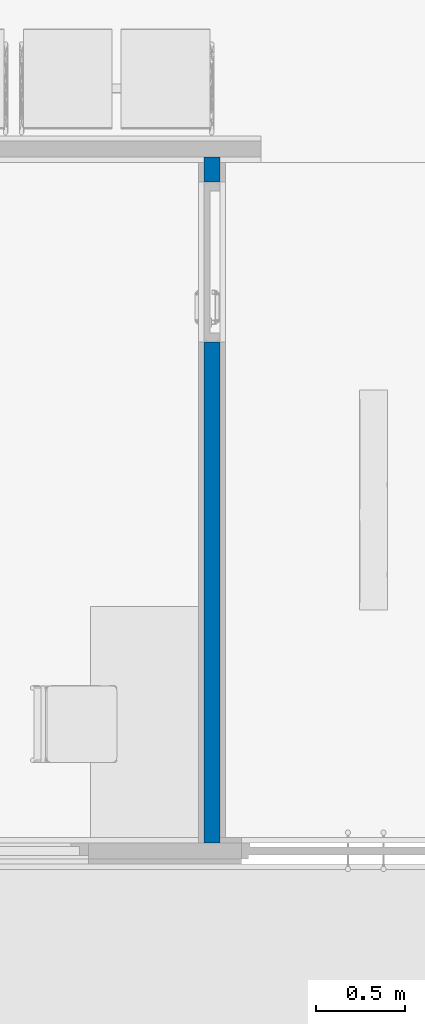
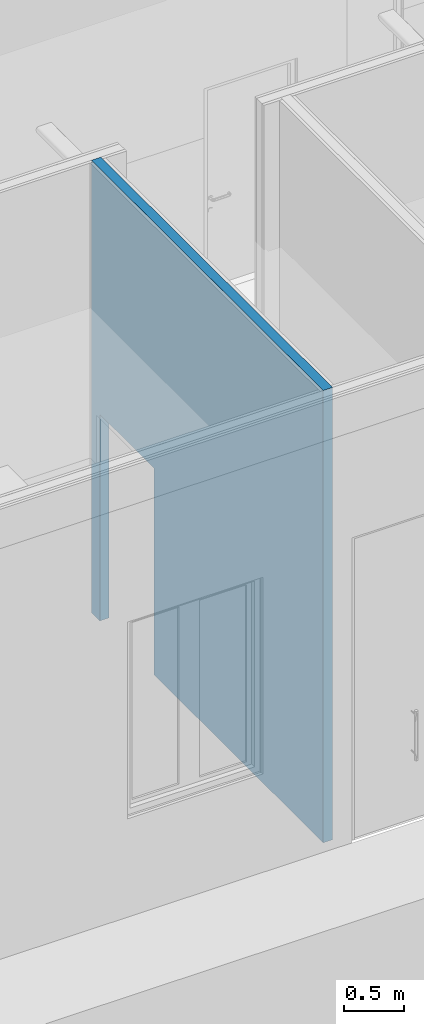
# One storey, part 8 of 155: 1 wall, 1 opening.
"""IFC2X3 building model written with IfcOpenShell, lengths in metres."""

from ifc_helpers import new_model, entity, si_unit, converted_unit, derived_unit, direction, frame, frame_2d, origin, place, context, subcontext, project, spatial, rectangle, extrude, material, layer, layer_set, layer_usage, type_object, element, save


model = new_model("IFC2X3")

# Units and contexts
model_context = context("Model", 3, precision=1e-05, world=origin(), true_north=direction((6.12303176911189e-17, 1.0)))
body_context = subcontext(model_context, "Body", "Model", "MODEL_VIEW")
ifc_project = project(units=[si_unit("LENGTHUNIT", "METRE"), si_unit("AREAUNIT", "SQUARE_METRE"), si_unit("VOLUMEUNIT", "CUBIC_METRE"), converted_unit("PLANEANGLEUNIT", "DEGREE", entity("IfcRatioMeasure", 0.0174532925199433), si_unit("PLANEANGLEUNIT", "RADIAN"), dimensions=[0, 0, 0, 0, 0, 0, 0]), si_unit("MASSUNIT", "GRAM", prefix="KILO"), derived_unit("MASSDENSITYUNIT", [(si_unit("MASSUNIT", "GRAM", prefix="KILO"), 1), (si_unit("LENGTHUNIT", "METRE"), -3)]), si_unit("TIMEUNIT", "SECOND"), si_unit("FREQUENCYUNIT", "HERTZ"), si_unit("THERMODYNAMICTEMPERATUREUNIT", "DEGREE_CELSIUS"), derived_unit("THERMALTRANSMITTANCEUNIT", [(si_unit("MASSUNIT", "GRAM", prefix="KILO"), 1), (si_unit("THERMODYNAMICTEMPERATUREUNIT", "KELVIN"), -1), (si_unit("TIMEUNIT", "SECOND"), -3)]), derived_unit("VOLUMETRICFLOWRATEUNIT", [(si_unit("LENGTHUNIT", "METRE"), 3), (si_unit("TIMEUNIT", "SECOND"), -1)]), si_unit("ELECTRICCURRENTUNIT", "AMPERE"), si_unit("ELECTRICVOLTAGEUNIT", "VOLT"), si_unit("POWERUNIT", "WATT"), si_unit("FORCEUNIT", "NEWTON", prefix="KILO"), si_unit("ILLUMINANCEUNIT", "LUX"), si_unit("LUMINOUSFLUXUNIT", "LUMEN"), si_unit("LUMINOUSINTENSITYUNIT", "CANDELA"), derived_unit("USERDEFINED", [(si_unit("MASSUNIT", "GRAM", prefix="KILO"), -1), (si_unit("LENGTHUNIT", "METRE"), -2), (si_unit("TIMEUNIT", "SECOND"), 3), (si_unit("LUMINOUSFLUXUNIT", "LUMEN"), 1)]), derived_unit("LINEARVELOCITYUNIT", [(si_unit("LENGTHUNIT", "METRE"), 1), (si_unit("TIMEUNIT", "SECOND"), -1)]), si_unit("PRESSUREUNIT", "PASCAL"), derived_unit("USERDEFINED", [(si_unit("LENGTHUNIT", "METRE"), -2), (si_unit("MASSUNIT", "GRAM", prefix="KILO"), 1), (si_unit("TIMEUNIT", "SECOND"), -2)])], contexts=[model_context])

# Site, building, storey
site_placement = place(None, frame((26.9889013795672, -17.5624287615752, 0.0)))
site = spatial("IfcSite", under=ifc_project, at=site_placement, Name="Default", CompositionType="ELEMENT")
building_placement = place(site_placement, origin())
building = spatial("IfcBuilding", under=site, at=building_placement, Name="C. C. L. Monsenhor Antônio Sampaio", CompositionType="ELEMENT")
storey_placement = place(building_placement, frame((0.0, 0.0, 1.19999999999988)))
storey = spatial("IfcBuildingStorey", under=building, at=storey_placement, Name="Nível 1.2", CompositionType="ELEMENT", Elevation=1.19999999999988)

# Wall, opening
ifc_material = material(Name="ALVENARIA")
ifc_layer = layer(ifc_material, 0.09)
ifc_layer_set = layer_set([ifc_layer], Name="Parede básica:ENucleo parede 15cm")
ifc_layer_usage = layer_usage(ifc_layer_set, "AXIS2", "NEGATIVE", 0.045)
wall_type = type_object("IfcWallType", Name="Parede básica:ENucleo parede 15cm", PredefinedType="STANDARD", material=ifc_layer_set)
wall_placement = place(storey_placement, frame((-2.11555229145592, -39.3330663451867, 0.0), z_axis=(0.0, 0.0, 1.0), x_axis=(0.0, 1.0, 0.0)))
wall = element("IfcWallStandardCase", 1, at=wall_placement, inside=storey, type_object=wall_type, material=ifc_layer_usage, Name="Parede básica:ENucleo parede 15cm", ObjectType="Parede básica:ENucleo parede 15cm", context=body_context, shape_type="SweptSolid", body=[
    extrude(rectangle(XDim=3.86000000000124, YDim=0.0900000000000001, at=frame_2d((1.93000000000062, 0.0), x_axis=(-1.0, 0.0))), origin(), (0.0, 0.0, 1.0), 4.60000000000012),
])
opening_placement = place(wall_placement, frame((2.82000000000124, -0.0449999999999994, 0.0)))
element("IfcOpeningElement", 2, at=opening_placement, cuts=wall, Name="Porta levantamento:90 x 211 AZUL:1", ObjectType="Opening", context=body_context, shape_type="SweptSolid", body=[
    extrude(rectangle(XDim=2.09999999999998, YDim=0.9, at=frame_2d((1.04999999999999, 0.45), x_axis=(1.0, 0.0))), frame((0.0, 0.0, 0.0), z_axis=(0.0, 1.0, 0.0), x_axis=(0.0, 0.0, 1.0)), (0.0, 0.0, 1.0), 0.09),
])

save(model, "model.ifc")
